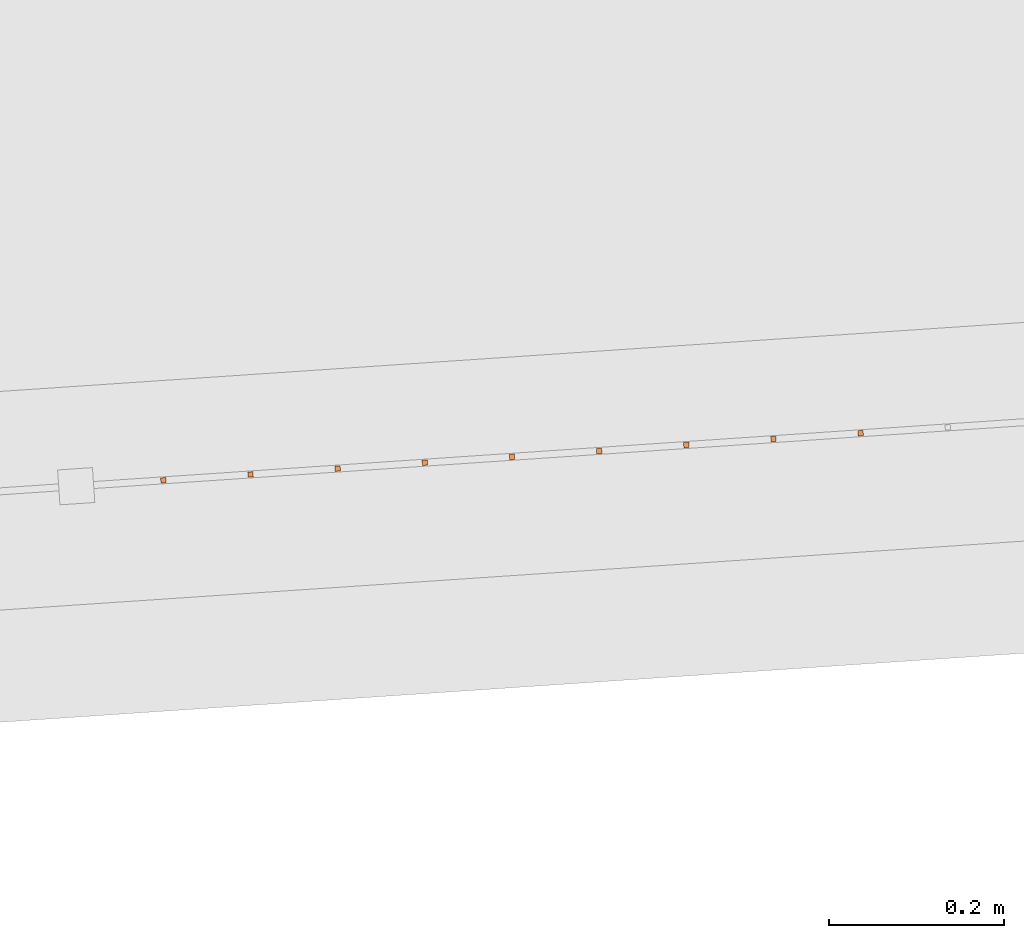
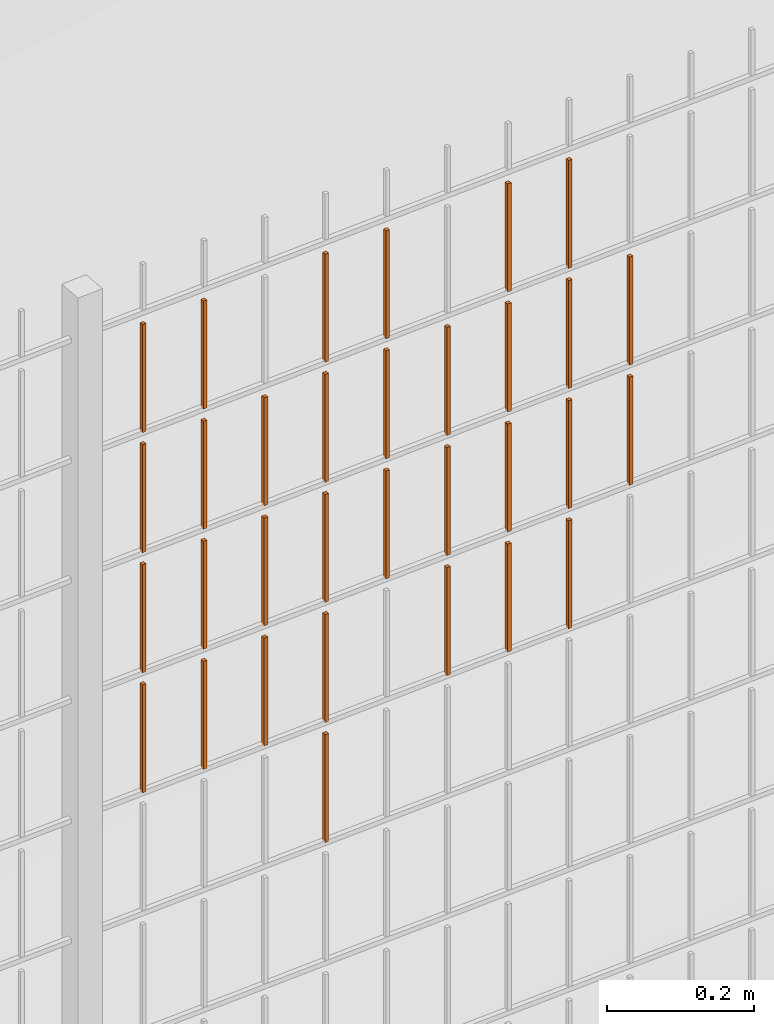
# One storey, part 141 of 1809: 32 proxies, 1 element without a shape of its own.
"""IFC2X3 building model written with IfcOpenShell, lengths in millimetres."""

from ifc_helpers import new_model, entity, si_unit, converted_unit, derived_unit, money_unit, direction, frame, origin_with_axes, place, context, subcontext, project, spatial, faceted_brep, source, transform, mapped, material, type_object, element, aggregate, save


model = new_model("IFC2X3")

# Units and contexts
model_context = context("Model", 3, precision=0.01, world=origin_with_axes(), true_north=direction((0.0, 1.0)))
body_context = subcontext(model_context, "Body", "Model", "MODEL_VIEW")
ifc_project = project(units=[si_unit("LENGTHUNIT", "METRE", prefix="MILLI"), si_unit("AREAUNIT", "SQUARE_METRE"), si_unit("VOLUMEUNIT", "CUBIC_METRE"), converted_unit("PLANEANGLEUNIT", "DEGREE", entity("IfcPlaneAngleMeasure", 0.0174532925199), si_unit("PLANEANGLEUNIT", "RADIAN"), dimensions=[0, 0, 0, 0, 0, 0, 0]), si_unit("SOLIDANGLEUNIT", "STERADIAN"), money_unit("EUR"), converted_unit("TIMEUNIT", "Year", entity("IfcTimeMeasure", 31556926.0), si_unit("TIMEUNIT", "SECOND"), dimensions=[0, 0, 1, 0, 0, 0, 0]), si_unit("MASSUNIT", "GRAM", prefix="KILO"), si_unit("THERMODYNAMICTEMPERATUREUNIT", "DEGREE_CELSIUS"), si_unit("LUMINOUSINTENSITYUNIT", "LUMEN"), si_unit("ENERGYUNIT", "JOULE", prefix="MEGA"), derived_unit("THERMALCONDUCTANCEUNIT", [(si_unit("POWERUNIT", "WATT"), 1), (si_unit("LENGTHUNIT", "METRE"), -1), (si_unit("THERMODYNAMICTEMPERATUREUNIT", "KELVIN"), -1)]), derived_unit("SPECIFICHEATCAPACITYUNIT", [(si_unit("ENERGYUNIT", "JOULE"), 1), (si_unit("MASSUNIT", "GRAM", prefix="KILO"), -1), (si_unit("THERMODYNAMICTEMPERATUREUNIT", "KELVIN"), -1)]), derived_unit("MASSDENSITYUNIT", [(si_unit("MASSUNIT", "GRAM", prefix="KILO"), 1), (si_unit("VOLUMEUNIT", "CUBIC_METRE"), -1)])], contexts=[model_context])

# Site, building, storey
site_placement = place(None, origin_with_axes())
site = spatial("IfcSite", under=ifc_project, at=site_placement, Name="Politse- ja Piirivalveameti ning Päästeameti ühishoone", CompositionType="ELEMENT")
building_placement = place(site_placement, origin_with_axes())
building = spatial("IfcBuilding", under=site, at=building_placement, Name="Politse- ja Piirivalveameti ning Päästeameti ühishoone", CompositionType="ELEMENT")
storey_placement = place(building_placement, origin_with_axes())
storey = spatial("IfcBuildingStorey", under=building, at=storey_placement, Name="Esimene korrus", CompositionType="ELEMENT", Elevation=0.0)

# Proxies
building_element_proxy_type_1 = type_object("IfcBuildingElementProxyType", Name="Railing Type", PredefinedType="NOTDEFINED")
proxy_1_placement = place(storey_placement, frame((89252.001212, -29183.4766571, 203.661247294), z_axis=(0.0, 0.0, 1.0), x_axis=(1.0, 0.0, 0.0)))
proxy_1 = element("IfcBuildingElementProxy", 1, at=proxy_1_placement, inside=storey, type_object=building_element_proxy_type_1, Name="PIIRDEAED")
ifc_material = material(Name="ET-03_Raud")
building_element_proxy_type_2 = type_object("IfcBuildingElementProxyType", Name="IfcBuildingElementProxy", PredefinedType="NOTDEFINED")
shared_shape_1 = source(origin_with_axes(), body_context, "Body", "Brep", [
    faceted_brep([(3.0, 3.0, -0.000752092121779), (-3.0, 3.0, -0.000752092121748), (-3.00000000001, 3.0, 179.99926046), (2.99999999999, 3.0, 179.99926046), (3.0, -3.0, 0.000752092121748), (-3.0, -3.0, 0.000752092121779), (-3.00000000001, -3.0, 180.000764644), (2.99999999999, -3.0, 180.000764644)], [[[0, 1, 2, 3]], [[0, 4, 5, 1]], [[1, 5, 6, 2]], [[3, 2, 6, 7]], [[4, 0, 3, 7]], [[5, 4, 7, 6]]]),
])
proxy_2_placement = place(proxy_1_placement, frame((-86729.0627724, -23155.9956482, 1005.44209311), z_axis=(0.0, 0.0, 1.0), x_axis=(1.0, 0.0, 0.0)))
proxy_2 = element("IfcBuildingElementProxy", 2, at=proxy_2_placement, type_object=building_element_proxy_type_2, material=ifc_material, Name="BALUSTER - 001", context=body_context, shape_type="MappedRepresentation", body=[
    mapped(shared_shape_1, transform((0.0, 0.0, 0.0), x_axis=(-0.0673926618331, 0.997726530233, 0.0), y_axis=(-0.997726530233, -0.0673926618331, 0.0), z_axis=(0.0, 0.0, 1.0))),
])
shared_shape_2 = source(origin_with_axes(), body_context, "Body", "Brep", [
    faceted_brep([(3.0, 3.0, -0.000752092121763), (-3.0, 3.0, -0.000752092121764), (-3.0, 3.0, 179.99926046), (3.0, 3.0, 179.99926046), (3.0, -3.0, 0.000752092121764), (-3.0, -3.0, 0.000752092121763), (-3.0, -3.0, 180.000764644), (3.0, -3.0, 180.000764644)], [[[0, 1, 2, 3]], [[0, 4, 5, 1]], [[1, 5, 6, 2]], [[3, 2, 6, 7]], [[4, 0, 3, 7]], [[5, 4, 7, 6]]]),
])
proxy_3_placement = place(proxy_1_placement, frame((-86629.2901194, -23149.256382, 1805.46716285), z_axis=(0.0, 0.0, 1.0), x_axis=(1.0, 0.0, 0.0)))
proxy_3 = element("IfcBuildingElementProxy", 3, at=proxy_3_placement, type_object=building_element_proxy_type_2, material=ifc_material, Name="BALUSTER - 001", context=body_context, shape_type="MappedRepresentation", body=[
    mapped(shared_shape_2, transform((0.0, 0.0, 0.0), x_axis=(-0.0673926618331, 0.997726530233, 0.0), y_axis=(-0.997726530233, -0.0673926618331, 0.0), z_axis=(0.0, 0.0, 1.0))),
])
shared_shape_3 = source(origin_with_axes(), body_context, "Body", "Brep", [
    faceted_brep([(3.0, 3.0, -0.000752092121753), (-3.0, 3.0, -0.000752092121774), (-3.0, 3.0, 179.99926046), (3.0, 3.0, 179.99926046), (3.0, -3.0, 0.000752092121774), (-3.0, -3.0, 0.000752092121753), (-3.0, -3.0, 180.000764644), (3.0, -3.0, 180.000764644)], [[[0, 1, 2, 3]], [[0, 4, 5, 1]], [[1, 5, 6, 2]], [[3, 2, 6, 7]], [[4, 0, 3, 7]], [[5, 4, 7, 6]]]),
])
proxy_4_placement = place(proxy_1_placement, frame((-86429.7448134, -23135.7778497, 1205.51730232), z_axis=(0.0, 0.0, 1.0), x_axis=(1.0, 0.0, 0.0)))
proxy_4 = element("IfcBuildingElementProxy", 4, at=proxy_4_placement, type_object=building_element_proxy_type_2, material=ifc_material, Name="BALUSTER - 001", context=body_context, shape_type="MappedRepresentation", body=[
    mapped(shared_shape_3, transform((0.0, 0.0, 0.0), x_axis=(-0.0673926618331, 0.997726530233, 0.0), y_axis=(-0.997726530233, -0.0673926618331, 0.0), z_axis=(0.0, 0.0, 1.0))),
])
proxy_5_placement = place(proxy_1_placement, frame((-86329.9721603, -23129.0385835, 1805.54237206), z_axis=(0.0, 0.0, 1.0), x_axis=(1.0, 0.0, 0.0)))
proxy_5 = element("IfcBuildingElementProxy", 5, at=proxy_5_placement, type_object=building_element_proxy_type_2, material=ifc_material, Name="BALUSTER - 001", context=body_context, shape_type="MappedRepresentation", body=[
    mapped(shared_shape_3, transform((0.0, 0.0, 0.0), x_axis=(-0.0673926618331, 0.997726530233, 0.0), y_axis=(-0.997726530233, -0.0673926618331, 0.0), z_axis=(0.0, 0.0, 1.0))),
])
proxy_6_placement = place(proxy_1_placement, frame((-86928.6080785, -23169.4741806, 1805.39195364), z_axis=(0.0, 0.0, 1.0), x_axis=(1.0, 0.0, 0.0)))
proxy_6 = element("IfcBuildingElementProxy", 6, at=proxy_6_placement, type_object=building_element_proxy_type_2, material=ifc_material, Name="BALUSTER - 001", context=body_context, shape_type="MappedRepresentation", body=[
    mapped(shared_shape_3, transform((0.0, 0.0, 0.0), x_axis=(-0.0673926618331, 0.997726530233, 0.0), y_axis=(-0.997726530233, -0.0673926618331, 0.0), z_axis=(0.0, 0.0, 1.0))),
])
shared_shape_4 = source(origin_with_axes(), body_context, "Body", "Brep", [
    faceted_brep([(3.0, 3.0, -0.000752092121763), (-3.0, 3.0, -0.000752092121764), (-3.0, 3.0, 179.99926046), (3.0, 3.0, 179.99926046), (3.0, -3.0, 0.000752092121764), (-3.0, -3.0, 0.000752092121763), (-3.0, -3.0, 180.000764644), (3.0, -3.0, 180.000764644)], [[[0, 1, 2, 3]], [[0, 4, 5, 1]], [[1, 5, 6, 2]], [[3, 2, 6, 7]], [[4, 0, 3, 7]], [[5, 4, 7, 6]]]),
])
proxy_7_placement = place(proxy_1_placement, frame((-86529.5174664, -23142.5171158, 1205.49223259), z_axis=(0.0, 0.0, 1.0), x_axis=(1.0, 0.0, 0.0)))
proxy_7 = element("IfcBuildingElementProxy", 7, at=proxy_7_placement, type_object=building_element_proxy_type_2, material=ifc_material, Name="BALUSTER - 001", context=body_context, shape_type="MappedRepresentation", body=[
    mapped(shared_shape_4, transform((0.0, 0.0, 0.0), x_axis=(-0.0673926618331, 0.997726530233, 0.0), y_axis=(-0.997726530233, -0.0673926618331, 0.0), z_axis=(0.0, 0.0, 1.0))),
])
shared_shape_5 = source(origin_with_axes(), body_context, "Body", "Brep", [
    faceted_brep([(3.0, 3.0, -0.000752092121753), (-3.0, 3.0, -0.000752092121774), (-3.0, 3.0, 179.99926046), (3.0, 3.0, 179.99926046), (3.0, -3.0, 0.000752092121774), (-3.0, -3.0, 0.000752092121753), (-3.0, -3.0, 180.000764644), (3.0, -3.0, 180.000764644)], [[[0, 1, 2, 3]], [[0, 4, 5, 1]], [[1, 5, 6, 2]], [[3, 2, 6, 7]], [[4, 0, 3, 7]], [[5, 4, 7, 6]]]),
])
proxy_8_placement = place(proxy_1_placement, frame((-86928.6080785, -23169.4741806, 1205.39195364), z_axis=(0.0, 0.0, 1.0), x_axis=(1.0, 0.0, 0.0)))
proxy_8 = element("IfcBuildingElementProxy", 8, at=proxy_8_placement, type_object=building_element_proxy_type_2, material=ifc_material, Name="BALUSTER - 001", context=body_context, shape_type="MappedRepresentation", body=[
    mapped(shared_shape_5, transform((0.0, 0.0, 0.0), x_axis=(-0.0673926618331, 0.997726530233, 0.0), y_axis=(-0.997726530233, -0.0673926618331, 0.0), z_axis=(0.0, 0.0, 1.0))),
])
shared_shape_6 = source(origin_with_axes(), body_context, "Body", "Brep", [
    faceted_brep([(3.0, 3.0, -0.000752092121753), (-3.0, 3.0, -0.000752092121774), (-3.0, 3.0, 179.99926046), (3.0, 3.0, 179.99926046), (3.0, -3.0, 0.000752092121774), (-3.0, -3.0, 0.000752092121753), (-3.0, -3.0, 180.000764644), (3.0, -3.0, 180.000764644)], [[[0, 1, 2, 3]], [[0, 4, 5, 1]], [[1, 5, 6, 2]], [[3, 2, 6, 7]], [[4, 0, 3, 7]], [[5, 4, 7, 6]]]),
])
proxy_9_placement = place(proxy_1_placement, frame((-86329.9721603, -23129.0385835, 1205.54237206), z_axis=(0.0, 0.0, 1.0), x_axis=(1.0, 0.0, 0.0)))
proxy_9 = element("IfcBuildingElementProxy", 9, at=proxy_9_placement, type_object=building_element_proxy_type_2, material=ifc_material, Name="BALUSTER - 001", context=body_context, shape_type="MappedRepresentation", body=[
    mapped(shared_shape_6, transform((0.0, 0.0, 0.0), x_axis=(-0.0673926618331, 0.997726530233, 0.0), y_axis=(-0.997726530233, -0.0673926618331, 0.0), z_axis=(0.0, 0.0, 1.0))),
])
proxy_10_placement = place(proxy_1_placement, frame((-86429.7448134, -23135.7778497, 1805.51730232), z_axis=(0.0, 0.0, 1.0), x_axis=(1.0, 0.0, 0.0)))
proxy_10 = element("IfcBuildingElementProxy", 10, at=proxy_10_placement, type_object=building_element_proxy_type_2, material=ifc_material, Name="BALUSTER - 001", context=body_context, shape_type="MappedRepresentation", body=[
    mapped(shared_shape_6, transform((0.0, 0.0, 0.0), x_axis=(-0.0673926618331, 0.997726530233, 0.0), y_axis=(-0.997726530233, -0.0673926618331, 0.0), z_axis=(0.0, 0.0, 1.0))),
])
shared_shape_7 = source(origin_with_axes(), body_context, "Body", "Brep", [
    faceted_brep([(3.0, 3.0, -0.000752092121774), (-3.0, 3.0, -0.000752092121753), (-3.0, 3.0, 179.99926046), (3.0, 3.0, 179.99926046), (3.0, -3.0, 0.000752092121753), (-3.0, -3.0, 0.000752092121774), (-3.0, -3.0, 180.000764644), (3.0, -3.0, 180.000764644)], [[[0, 1, 2, 3]], [[0, 4, 5, 1]], [[1, 5, 6, 2]], [[3, 2, 6, 7]], [[4, 0, 3, 7]], [[5, 4, 7, 6]]]),
])
proxy_11_placement = place(proxy_1_placement, frame((-86729.0627724, -23155.9956482, 1805.44209311), z_axis=(0.0, 0.0, 1.0), x_axis=(1.0, 0.0, 0.0)))
proxy_11 = element("IfcBuildingElementProxy", 11, at=proxy_11_placement, type_object=building_element_proxy_type_2, material=ifc_material, Name="BALUSTER - 001", context=body_context, shape_type="MappedRepresentation", body=[
    mapped(shared_shape_7, transform((0.0, 0.0, 0.0), x_axis=(-0.0673926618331, 0.997726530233, 0.0), y_axis=(-0.997726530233, -0.0673926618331, 0.0), z_axis=(0.0, 0.0, 1.0))),
])
shared_shape_8 = source(origin_with_axes(), body_context, "Body", "Brep", [
    faceted_brep([(3.0, 3.0, -0.000752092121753), (-3.0, 3.0, -0.000752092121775), (-3.0, 3.0, 179.99926046), (3.0, 3.0, 179.99926046), (3.0, -3.0, 0.000752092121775), (-3.0, -3.0, 0.000752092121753), (-3.0, -3.0, 180.000764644), (3.0, -3.0, 180.000764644)], [[[0, 1, 2, 3]], [[0, 4, 5, 1]], [[1, 5, 6, 2]], [[3, 2, 6, 7]], [[4, 0, 3, 7]], [[5, 4, 7, 6]]]),
])
proxy_12_placement = place(proxy_1_placement, frame((-86828.8354255, -23162.7349144, 1205.41702338), z_axis=(0.0, 0.0, 1.0), x_axis=(1.0, 0.0, 0.0)))
proxy_12 = element("IfcBuildingElementProxy", 12, at=proxy_12_placement, type_object=building_element_proxy_type_2, material=ifc_material, Name="BALUSTER - 001", context=body_context, shape_type="MappedRepresentation", body=[
    mapped(shared_shape_8, transform((0.0, 0.0, 0.0), x_axis=(-0.0673926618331, 0.997726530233, 0.0), y_axis=(-0.997726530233, -0.0673926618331, 0.0), z_axis=(0.0, 0.0, 1.0))),
])
shared_shape_9 = source(origin_with_axes(), body_context, "Body", "Brep", [
    faceted_brep([(3.0, 3.0, -0.000752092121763), (-3.0, 3.0, -0.000752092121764), (-3.0, 3.0, 179.99926046), (3.0, 3.0, 179.99926046), (3.0, -3.0, 0.000752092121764), (-3.0, -3.0, 0.000752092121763), (-3.0, -3.0, 180.000764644), (3.0, -3.0, 180.000764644)], [[[0, 1, 2, 3]], [[0, 4, 5, 1]], [[1, 5, 6, 2]], [[3, 2, 6, 7]], [[4, 0, 3, 7]], [[5, 4, 7, 6]]]),
])
proxy_13_placement = place(proxy_1_placement, frame((-87028.3807315, -23176.2134468, 1805.3668839), z_axis=(0.0, 0.0, 1.0), x_axis=(1.0, 0.0, 0.0)))
proxy_13 = element("IfcBuildingElementProxy", 13, at=proxy_13_placement, type_object=building_element_proxy_type_2, material=ifc_material, Name="BALUSTER - 001", context=body_context, shape_type="MappedRepresentation", body=[
    mapped(shared_shape_9, transform((0.0, 0.0, 0.0), x_axis=(-0.0673926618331, 0.997726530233, 0.0), y_axis=(-0.997726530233, -0.0673926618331, 0.0), z_axis=(0.0, 0.0, 1.0))),
])
shared_shape_10 = source(origin_with_axes(), body_context, "Body", "Brep", [
    faceted_brep([(3.0, 3.0, -0.000752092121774), (-3.0, 3.0, -0.000752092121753), (-3.0, 3.0, 179.99926046), (3.0, 3.0, 179.99926046), (3.0, -3.0, 0.000752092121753), (-3.0, -3.0, 0.000752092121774), (-3.0, -3.0, 180.000764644), (3.0, -3.0, 180.000764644)], [[[0, 1, 2, 3]], [[0, 4, 5, 1]], [[1, 5, 6, 2]], [[3, 2, 6, 7]], [[4, 0, 3, 7]], [[5, 4, 7, 6]]]),
])
proxy_14_placement = place(proxy_1_placement, frame((-86729.0627724, -23155.9956482, 1205.44209311), z_axis=(0.0, 0.0, 1.0), x_axis=(1.0, 0.0, 0.0)))
proxy_14 = element("IfcBuildingElementProxy", 14, at=proxy_14_placement, type_object=building_element_proxy_type_2, material=ifc_material, Name="BALUSTER - 001", context=body_context, shape_type="MappedRepresentation", body=[
    mapped(shared_shape_10, transform((0.0, 0.0, 0.0), x_axis=(-0.0673926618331, 0.997726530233, 0.0), y_axis=(-0.997726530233, -0.0673926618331, 0.0), z_axis=(0.0, 0.0, 1.0))),
])
shared_shape_11 = source(origin_with_axes(), body_context, "Body", "Brep", [
    faceted_brep([(3.0, 3.0, -0.000752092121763), (-3.0, 3.0, -0.000752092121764), (-3.0, 3.0, 179.99926046), (3.0, 3.0, 179.99926046), (3.0, -3.0, 0.000752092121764), (-3.0, -3.0, 0.000752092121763), (-3.0, -3.0, 180.000764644), (3.0, -3.0, 180.000764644)], [[[0, 1, 2, 3]], [[0, 4, 5, 1]], [[1, 5, 6, 2]], [[3, 2, 6, 7]], [[4, 0, 3, 7]], [[5, 4, 7, 6]]]),
])
proxy_15_placement = place(proxy_1_placement, frame((-87028.3807315, -23176.2134468, 1205.3668839), z_axis=(0.0, 0.0, 1.0), x_axis=(1.0, 0.0, 0.0)))
proxy_15 = element("IfcBuildingElementProxy", 15, at=proxy_15_placement, type_object=building_element_proxy_type_2, material=ifc_material, Name="BALUSTER - 001", context=body_context, shape_type="MappedRepresentation", body=[
    mapped(shared_shape_11, transform((0.0, 0.0, 0.0), x_axis=(-0.0673926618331, 0.997726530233, 0.0), y_axis=(-0.997726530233, -0.0673926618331, 0.0), z_axis=(0.0, 0.0, 1.0))),
])
shared_shape_12 = source(origin_with_axes(), body_context, "Body", "Brep", [
    faceted_brep([(3.0, 3.0, -0.000752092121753), (-3.0, 3.0, -0.000752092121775), (-3.0, 3.0, 179.99926046), (3.0, 3.0, 179.99926046), (3.0, -3.0, 0.000752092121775), (-3.0, -3.0, 0.000752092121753), (-3.0, -3.0, 180.000764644), (3.0, -3.0, 180.000764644)], [[[0, 1, 2, 3]], [[0, 4, 5, 1]], [[1, 5, 6, 2]], [[3, 2, 6, 7]], [[4, 0, 3, 7]], [[5, 4, 7, 6]]]),
])
proxy_16_placement = place(proxy_1_placement, frame((-86230.1995073, -23122.2993173, 1405.5674418), z_axis=(0.0, 0.0, 1.0), x_axis=(1.0, 0.0, 0.0)))
proxy_16 = element("IfcBuildingElementProxy", 16, at=proxy_16_placement, type_object=building_element_proxy_type_2, material=ifc_material, Name="BALUSTER - 001", context=body_context, shape_type="MappedRepresentation", body=[
    mapped(shared_shape_12, transform((0.0, 0.0, 0.0), x_axis=(-0.0673926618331, 0.997726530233, 0.0), y_axis=(-0.997726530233, -0.0673926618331, 0.0), z_axis=(0.0, 0.0, 1.0))),
])
proxy_17_placement = place(proxy_1_placement, frame((-86230.1995073, -23122.2993173, 1605.5674418), z_axis=(0.0, 0.0, 1.0), x_axis=(1.0, 0.0, 0.0)))
proxy_17 = element("IfcBuildingElementProxy", 17, at=proxy_17_placement, type_object=building_element_proxy_type_2, material=ifc_material, Name="BALUSTER - 001", context=body_context, shape_type="MappedRepresentation", body=[
    mapped(shared_shape_12, transform((0.0, 0.0, 0.0), x_axis=(-0.0673926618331, 0.997726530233, 0.0), y_axis=(-0.997726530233, -0.0673926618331, 0.0), z_axis=(0.0, 0.0, 1.0))),
])
shared_shape_13 = source(origin_with_axes(), body_context, "Body", "Brep", [
    faceted_brep([(3.0, 3.0, -0.000752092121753), (-3.0, 3.0, -0.000752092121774), (-3.0, 3.0, 179.99926046), (3.0, 3.0, 179.99926046), (3.0, -3.0, 0.000752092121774), (-3.0, -3.0, 0.000752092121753), (-3.0, -3.0, 180.000764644), (3.0, -3.0, 180.000764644)], [[[0, 1, 2, 3]], [[0, 4, 5, 1]], [[1, 5, 6, 2]], [[3, 2, 6, 7]], [[4, 0, 3, 7]], [[5, 4, 7, 6]]]),
])
proxy_18_placement = place(proxy_1_placement, frame((-86329.9721603, -23129.0385835, 1405.54237206), z_axis=(0.0, 0.0, 1.0), x_axis=(1.0, 0.0, 0.0)))
proxy_18 = element("IfcBuildingElementProxy", 18, at=proxy_18_placement, type_object=building_element_proxy_type_2, material=ifc_material, Name="BALUSTER - 001", context=body_context, shape_type="MappedRepresentation", body=[
    mapped(shared_shape_13, transform((0.0, 0.0, 0.0), x_axis=(-0.0673926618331, 0.997726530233, 0.0), y_axis=(-0.997726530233, -0.0673926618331, 0.0), z_axis=(0.0, 0.0, 1.0))),
])
proxy_19_placement = place(proxy_1_placement, frame((-86329.9721603, -23129.0385835, 1605.54237206), z_axis=(0.0, 0.0, 1.0), x_axis=(1.0, 0.0, 0.0)))
proxy_19 = element("IfcBuildingElementProxy", 19, at=proxy_19_placement, type_object=building_element_proxy_type_2, material=ifc_material, Name="BALUSTER - 001", context=body_context, shape_type="MappedRepresentation", body=[
    mapped(shared_shape_13, transform((0.0, 0.0, 0.0), x_axis=(-0.0673926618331, 0.997726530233, 0.0), y_axis=(-0.997726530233, -0.0673926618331, 0.0), z_axis=(0.0, 0.0, 1.0))),
])
shared_shape_14 = source(origin_with_axes(), body_context, "Body", "Brep", [
    faceted_brep([(3.0, 3.0, -0.000752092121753), (-3.0, 3.0, -0.000752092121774), (-3.0, 3.0, 179.99926046), (3.0, 3.0, 179.99926046), (3.0, -3.0, 0.000752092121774), (-3.0, -3.0, 0.000752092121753), (-3.0, -3.0, 180.000764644), (3.0, -3.0, 180.000764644)], [[[0, 1, 2, 3]], [[0, 4, 5, 1]], [[1, 5, 6, 2]], [[3, 2, 6, 7]], [[4, 0, 3, 7]], [[5, 4, 7, 6]]]),
])
proxy_20_placement = place(proxy_1_placement, frame((-86429.7448134, -23135.7778497, 1405.51730232), z_axis=(0.0, 0.0, 1.0), x_axis=(1.0, 0.0, 0.0)))
proxy_20 = element("IfcBuildingElementProxy", 20, at=proxy_20_placement, type_object=building_element_proxy_type_2, material=ifc_material, Name="BALUSTER - 001", context=body_context, shape_type="MappedRepresentation", body=[
    mapped(shared_shape_14, transform((0.0, 0.0, 0.0), x_axis=(-0.0673926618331, 0.997726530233, 0.0), y_axis=(-0.997726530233, -0.0673926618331, 0.0), z_axis=(0.0, 0.0, 1.0))),
])
proxy_21_placement = place(proxy_1_placement, frame((-86429.7448134, -23135.7778497, 1605.51730232), z_axis=(0.0, 0.0, 1.0), x_axis=(1.0, 0.0, 0.0)))
proxy_21 = element("IfcBuildingElementProxy", 21, at=proxy_21_placement, type_object=building_element_proxy_type_2, material=ifc_material, Name="BALUSTER - 001", context=body_context, shape_type="MappedRepresentation", body=[
    mapped(shared_shape_14, transform((0.0, 0.0, 0.0), x_axis=(-0.0673926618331, 0.997726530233, 0.0), y_axis=(-0.997726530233, -0.0673926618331, 0.0), z_axis=(0.0, 0.0, 1.0))),
])
shared_shape_15 = source(origin_with_axes(), body_context, "Body", "Brep", [
    faceted_brep([(3.0, 3.0, -0.000752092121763), (-3.0, 3.0, -0.000752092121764), (-3.0, 3.0, 179.99926046), (3.0, 3.0, 179.99926046), (3.0, -3.0, 0.000752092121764), (-3.0, -3.0, 0.000752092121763), (-3.0, -3.0, 180.000764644), (3.0, -3.0, 180.000764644)], [[[0, 1, 2, 3]], [[0, 4, 5, 1]], [[1, 5, 6, 2]], [[3, 2, 6, 7]], [[4, 0, 3, 7]], [[5, 4, 7, 6]]]),
])
proxy_22_placement = place(proxy_1_placement, frame((-86529.5174664, -23142.5171158, 1405.49223259), z_axis=(0.0, 0.0, 1.0), x_axis=(1.0, 0.0, 0.0)))
proxy_22 = element("IfcBuildingElementProxy", 22, at=proxy_22_placement, type_object=building_element_proxy_type_2, material=ifc_material, Name="BALUSTER - 001", context=body_context, shape_type="MappedRepresentation", body=[
    mapped(shared_shape_15, transform((0.0, 0.0, 0.0), x_axis=(-0.0673926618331, 0.997726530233, 0.0), y_axis=(-0.997726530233, -0.0673926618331, 0.0), z_axis=(0.0, 0.0, 1.0))),
])
proxy_23_placement = place(proxy_1_placement, frame((-86529.5174664, -23142.5171158, 1605.49223259), z_axis=(0.0, 0.0, 1.0), x_axis=(1.0, 0.0, 0.0)))
proxy_23 = element("IfcBuildingElementProxy", 23, at=proxy_23_placement, type_object=building_element_proxy_type_2, material=ifc_material, Name="BALUSTER - 001", context=body_context, shape_type="MappedRepresentation", body=[
    mapped(shared_shape_15, transform((0.0, 0.0, 0.0), x_axis=(-0.0673926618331, 0.997726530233, 0.0), y_axis=(-0.997726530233, -0.0673926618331, 0.0), z_axis=(0.0, 0.0, 1.0))),
])
shared_shape_16 = source(origin_with_axes(), body_context, "Body", "Brep", [
    faceted_brep([(3.0, 3.0, -0.000752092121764), (-3.0, 3.0, -0.000752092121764), (-3.0, 3.0, 179.99926046), (3.0, 3.0, 179.99926046), (3.0, -3.0, 0.000752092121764), (-3.0, -3.0, 0.000752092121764), (-3.0, -3.0, 180.000764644), (3.0, -3.0, 180.000764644)], [[[0, 1, 2, 3]], [[0, 4, 5, 1]], [[1, 5, 6, 2]], [[3, 2, 6, 7]], [[4, 0, 3, 7]], [[5, 4, 7, 6]]]),
])
proxy_24_placement = place(proxy_1_placement, frame((-86629.2901194, -23149.256382, 1405.46716285), z_axis=(0.0, 0.0, 1.0), x_axis=(1.0, 0.0, 0.0)))
proxy_24 = element("IfcBuildingElementProxy", 24, at=proxy_24_placement, type_object=building_element_proxy_type_2, material=ifc_material, Name="BALUSTER - 001", context=body_context, shape_type="MappedRepresentation", body=[
    mapped(shared_shape_16, transform((0.0, 0.0, 0.0), x_axis=(-0.0673926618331, 0.997726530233, 0.0), y_axis=(-0.997726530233, -0.0673926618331, 0.0), z_axis=(0.0, 0.0, 1.0))),
])
proxy_25_placement = place(proxy_1_placement, frame((-86629.2901194, -23149.256382, 1605.46716285), z_axis=(0.0, 0.0, 1.0), x_axis=(1.0, 0.0, 0.0)))
proxy_25 = element("IfcBuildingElementProxy", 25, at=proxy_25_placement, type_object=building_element_proxy_type_2, material=ifc_material, Name="BALUSTER - 001", context=body_context, shape_type="MappedRepresentation", body=[
    mapped(shared_shape_16, transform((0.0, 0.0, 0.0), x_axis=(-0.0673926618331, 0.997726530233, 0.0), y_axis=(-0.997726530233, -0.0673926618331, 0.0), z_axis=(0.0, 0.0, 1.0))),
])
shared_shape_17 = source(origin_with_axes(), body_context, "Body", "Brep", [
    faceted_brep([(3.0, 3.0, -0.000752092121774), (-3.0, 3.0, -0.000752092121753), (-3.0, 3.0, 179.99926046), (3.0, 3.0, 179.99926046), (3.0, -3.0, 0.000752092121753), (-3.0, -3.0, 0.000752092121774), (-3.0, -3.0, 180.000764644), (3.0, -3.0, 180.000764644)], [[[0, 1, 2, 3]], [[0, 4, 5, 1]], [[1, 5, 6, 2]], [[3, 2, 6, 7]], [[4, 0, 3, 7]], [[5, 4, 7, 6]]]),
])
proxy_26_placement = place(proxy_1_placement, frame((-86729.0627724, -23155.9956482, 1405.44209311), z_axis=(0.0, 0.0, 1.0), x_axis=(1.0, 0.0, 0.0)))
proxy_26 = element("IfcBuildingElementProxy", 26, at=proxy_26_placement, type_object=building_element_proxy_type_2, material=ifc_material, Name="BALUSTER - 001", context=body_context, shape_type="MappedRepresentation", body=[
    mapped(shared_shape_17, transform((0.0, 0.0, 0.0), x_axis=(-0.0673926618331, 0.997726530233, 0.0), y_axis=(-0.997726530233, -0.0673926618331, 0.0), z_axis=(0.0, 0.0, 1.0))),
])
proxy_27_placement = place(proxy_1_placement, frame((-86729.0627724, -23155.9956482, 1605.44209311), z_axis=(0.0, 0.0, 1.0), x_axis=(1.0, 0.0, 0.0)))
proxy_27 = element("IfcBuildingElementProxy", 27, at=proxy_27_placement, type_object=building_element_proxy_type_2, material=ifc_material, Name="BALUSTER - 001", context=body_context, shape_type="MappedRepresentation", body=[
    mapped(shared_shape_17, transform((0.0, 0.0, 0.0), x_axis=(-0.0673926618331, 0.997726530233, 0.0), y_axis=(-0.997726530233, -0.0673926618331, 0.0), z_axis=(0.0, 0.0, 1.0))),
])
shared_shape_18 = source(origin_with_axes(), body_context, "Body", "Brep", [
    faceted_brep([(3.0, 3.0, -0.000752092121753), (-3.0, 3.0, -0.000752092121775), (-3.0, 3.0, 179.99926046), (3.0, 3.0, 179.99926046), (3.0, -3.0, 0.000752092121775), (-3.0, -3.0, 0.000752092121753), (-3.0, -3.0, 180.000764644), (3.0, -3.0, 180.000764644)], [[[0, 1, 2, 3]], [[0, 4, 5, 1]], [[1, 5, 6, 2]], [[3, 2, 6, 7]], [[4, 0, 3, 7]], [[5, 4, 7, 6]]]),
])
proxy_28_placement = place(proxy_1_placement, frame((-86828.8354255, -23162.7349144, 1405.41702338), z_axis=(0.0, 0.0, 1.0), x_axis=(1.0, 0.0, 0.0)))
proxy_28 = element("IfcBuildingElementProxy", 28, at=proxy_28_placement, type_object=building_element_proxy_type_2, material=ifc_material, Name="BALUSTER - 001", context=body_context, shape_type="MappedRepresentation", body=[
    mapped(shared_shape_18, transform((0.0, 0.0, 0.0), x_axis=(-0.0673926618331, 0.997726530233, 0.0), y_axis=(-0.997726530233, -0.0673926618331, 0.0), z_axis=(0.0, 0.0, 1.0))),
])
proxy_29_placement = place(proxy_1_placement, frame((-86828.8354255, -23162.7349144, 1605.41702338), z_axis=(0.0, 0.0, 1.0), x_axis=(1.0, 0.0, 0.0)))
proxy_29 = element("IfcBuildingElementProxy", 29, at=proxy_29_placement, type_object=building_element_proxy_type_2, material=ifc_material, Name="BALUSTER - 001", context=body_context, shape_type="MappedRepresentation", body=[
    mapped(shared_shape_18, transform((0.0, 0.0, 0.0), x_axis=(-0.0673926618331, 0.997726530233, 0.0), y_axis=(-0.997726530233, -0.0673926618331, 0.0), z_axis=(0.0, 0.0, 1.0))),
])
shared_shape_19 = source(origin_with_axes(), body_context, "Body", "Brep", [
    faceted_brep([(3.0, 3.0, -0.000752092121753), (-3.0, 3.0, -0.000752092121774), (-3.0, 3.0, 179.99926046), (3.0, 3.0, 179.99926046), (3.0, -3.0, 0.000752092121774), (-3.0, -3.0, 0.000752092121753), (-3.0, -3.0, 180.000764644), (3.0, -3.0, 180.000764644)], [[[0, 1, 2, 3]], [[0, 4, 5, 1]], [[1, 5, 6, 2]], [[3, 2, 6, 7]], [[4, 0, 3, 7]], [[5, 4, 7, 6]]]),
])
proxy_30_placement = place(proxy_1_placement, frame((-86928.6080785, -23169.4741806, 1405.39195364), z_axis=(0.0, 0.0, 1.0), x_axis=(1.0, 0.0, 0.0)))
proxy_30 = element("IfcBuildingElementProxy", 30, at=proxy_30_placement, type_object=building_element_proxy_type_2, material=ifc_material, Name="BALUSTER - 001", context=body_context, shape_type="MappedRepresentation", body=[
    mapped(shared_shape_19, transform((0.0, 0.0, 0.0), x_axis=(-0.0673926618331, 0.997726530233, 0.0), y_axis=(-0.997726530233, -0.0673926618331, 0.0), z_axis=(0.0, 0.0, 1.0))),
])
proxy_31_placement = place(proxy_1_placement, frame((-86928.6080785, -23169.4741806, 1605.39195364), z_axis=(0.0, 0.0, 1.0), x_axis=(1.0, 0.0, 0.0)))
proxy_31 = element("IfcBuildingElementProxy", 31, at=proxy_31_placement, type_object=building_element_proxy_type_2, material=ifc_material, Name="BALUSTER - 001", context=body_context, shape_type="MappedRepresentation", body=[
    mapped(shared_shape_19, transform((0.0, 0.0, 0.0), x_axis=(-0.0673926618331, 0.997726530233, 0.0), y_axis=(-0.997726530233, -0.0673926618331, 0.0), z_axis=(0.0, 0.0, 1.0))),
])
shared_shape_20 = source(origin_with_axes(), body_context, "Body", "Brep", [
    faceted_brep([(3.0, 3.0, -0.000752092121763), (-3.0, 3.0, -0.000752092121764), (-3.0, 3.0, 179.99926046), (3.0, 3.0, 179.99926046), (3.0, -3.0, 0.000752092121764), (-3.0, -3.0, 0.000752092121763), (-3.0, -3.0, 180.000764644), (3.0, -3.0, 180.000764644)], [[[0, 1, 2, 3]], [[0, 4, 5, 1]], [[1, 5, 6, 2]], [[3, 2, 6, 7]], [[4, 0, 3, 7]], [[5, 4, 7, 6]]]),
])
proxy_32_placement = place(proxy_1_placement, frame((-87028.3807315, -23176.2134468, 1405.3668839), z_axis=(0.0, 0.0, 1.0), x_axis=(1.0, 0.0, 0.0)))
proxy_32 = element("IfcBuildingElementProxy", 32, at=proxy_32_placement, type_object=building_element_proxy_type_2, material=ifc_material, Name="BALUSTER - 001", context=body_context, shape_type="MappedRepresentation", body=[
    mapped(shared_shape_20, transform((0.0, 0.0, 0.0), x_axis=(-0.0673926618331, 0.997726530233, 0.0), y_axis=(-0.997726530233, -0.0673926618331, 0.0), z_axis=(0.0, 0.0, 1.0))),
])
proxy_33_placement = place(proxy_1_placement, frame((-87028.3807315, -23176.2134468, 1605.3668839), z_axis=(0.0, 0.0, 1.0), x_axis=(1.0, 0.0, 0.0)))
proxy_33 = element("IfcBuildingElementProxy", 33, at=proxy_33_placement, type_object=building_element_proxy_type_2, material=ifc_material, Name="BALUSTER - 001", context=body_context, shape_type="MappedRepresentation", body=[
    mapped(shared_shape_20, transform((0.0, 0.0, 0.0), x_axis=(-0.0673926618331, 0.997726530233, 0.0), y_axis=(-0.997726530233, -0.0673926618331, 0.0), z_axis=(0.0, 0.0, 1.0))),
])
aggregate(proxy_1, [proxy_2, proxy_9, proxy_4, proxy_7, proxy_14, proxy_12, proxy_8, proxy_15, proxy_16, proxy_18, proxy_20, proxy_22, proxy_24, proxy_26, proxy_28, proxy_30, proxy_32, proxy_17, proxy_19, proxy_21, proxy_23, proxy_25, proxy_27, proxy_29, proxy_31, proxy_33, proxy_5, proxy_10, proxy_3, proxy_11, proxy_6, proxy_13])

save(model, "model.ifc")
